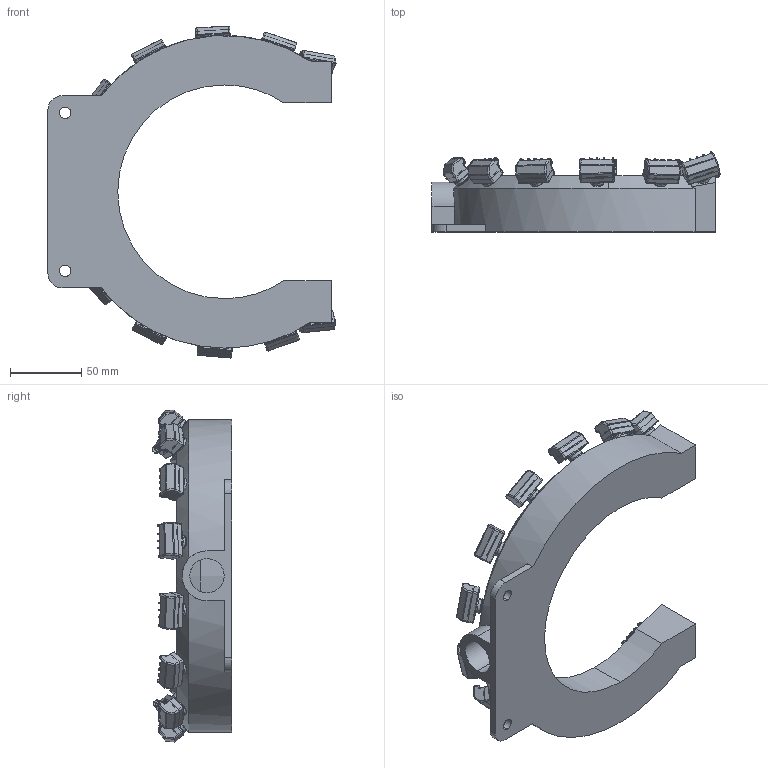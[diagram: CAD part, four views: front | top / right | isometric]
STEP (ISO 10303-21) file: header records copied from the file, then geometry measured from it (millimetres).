
FILE_DESCRIPTION (( 'STEP AP203' ), '1' );
FILE_NAME ('Silvent 464.STEP', '2007-12-07T07:47:29', ( 'Peter' ), ( '' ), 'SwSTEP 2.0', 'SolidWorks 2005204', '' );
FILE_SCHEMA (( 'CONFIG_CONTROL_DESIGN' ));
Length unit declared in the file: millimetre
Products named in the file (5): Silvent 464; 69058; 69044_69044-1; 69043_69043-1; 69042
Assembly tree (15 placements, depth 3):
  Silvent 464
    69044_69044-1  x12
      69042
      69043_69043-1
    69058
Bounding box: 202.21 x 56.07 x 233.06 mm (x, y, z)
Volume: 373082.2 mm3; surface area: 143311.3 mm2
Topology: 25 solids, 25 shells, 3931 faces, 10268 edges, 6487 vertices
Faces by surface type: plane 2225, cylinder 1140, torus 264, cone 206, sphere 72, bspline 24
Entity records: 17002 total; most frequent: CARTESIAN_POINT 4673, ORIENTED_EDGE 2466, DIRECTION 2338, EDGE_CURVE 1233, VECTOR 808, LINE 808, VERTEX_POINT 789, AXIS2_PLACEMENT_3D 765
